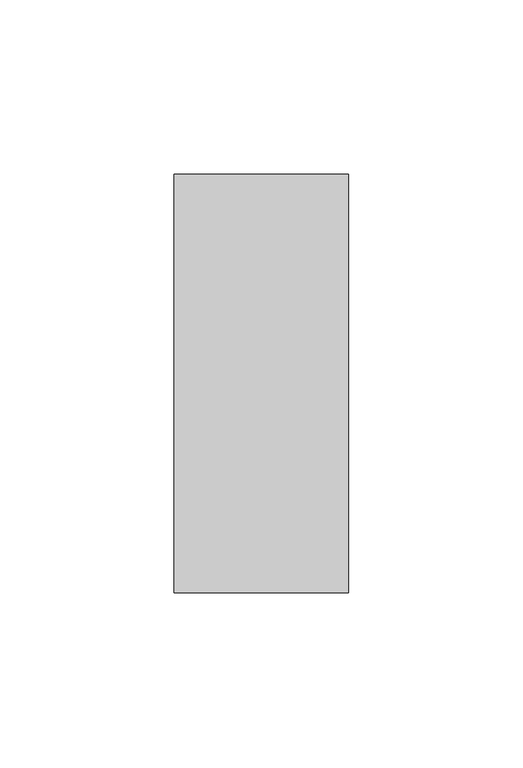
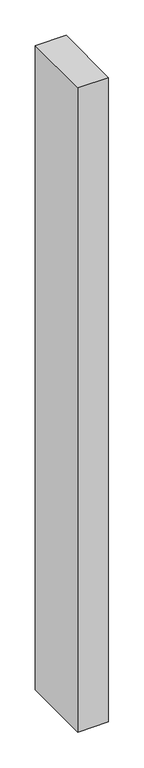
"""IFC4 building model written with IfcOpenShell, lengths in millimetres: member geometry, Прямоугольный импост : 50х120 мм."""

from ifc_helpers import new_model, si_unit, frame, origin, place, context, project, spatial, polyline, outline, extrude, source, transform, mapped, element, save


def member_0fd53cfc(model_context):
    return source(origin(), model_context, "Body", "SweptSolid", [
        extrude(outline(polyline([(0.0, 60.0), (0.0, -60.0), (-50.0, -60.0), (-50.0, 60.0), (0.0, 60.0)])), frame((0.0, 0.0, -1112.5), z_axis=(0.0, 0.0, 1.0), x_axis=(1.0, 0.0, 0.0)), (0.0, 0.0, 1.0), 1112.5),
    ])


if __name__ == "__main__":
    model = new_model("IFC4")
    model_context = context("Model", 3, world=origin())
    ifc_project = project(units=[si_unit("LENGTHUNIT", "METRE", prefix="MILLI")], contexts=[model_context])
    site = spatial("IfcSite", under=ifc_project)
    building = spatial("IfcBuilding", under=site)
    placement = place(None, origin())
    member_shape = member_0fd53cfc(model_context)
    element("IfcMember", 1, ObjectType="Прямоугольный импост : 50х120 мм", at=placement, inside=building, context=model_context, shape_type="MappedRepresentation", body=[
        mapped(member_shape, transform((0.0, 0.0, 0.0), x_axis=(1.0, 0.0, 0.0), y_axis=(0.0, 1.0, 0.0), z_axis=(0.0, 0.0, 1.0))),
    ])
    save(model, "model.ifc")
